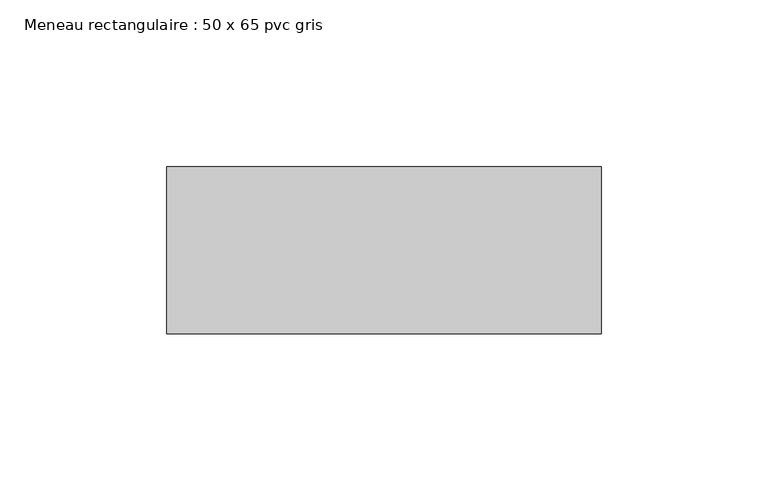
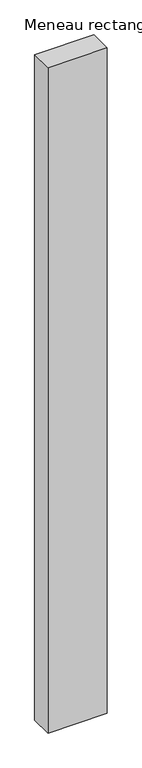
"""IFC4 building model written with IfcOpenShell, lengths in millimetres: member geometry, Meneau rectangulaire : 50 x 65 pvc gris."""

from ifc_helpers import new_model, si_unit, frame, origin, place, context, project, spatial, polyline, outline, extrude, source, transform, mapped, element, save


def meneau_rectangulaire_50_x_65_pvc_gris_b4070913(model_context):
    return source(origin(), model_context, "Body", "SweptSolid", [
        extrude(outline(polyline([(65.0, 0.0), (65.0, -50.0), (-65.0, -50.0), (-65.0, 0.0), (65.0, 0.0)])), frame((0.0, 0.0, -1541.2872498), z_axis=(0.0, 0.0, 1.0), x_axis=(1.0, 0.0, 0.0)), (0.0, 0.0, 1.0), 1541.2872498),
    ])


if __name__ == "__main__":
    model = new_model("IFC4")
    model_context = context("Model", 3, world=origin())
    ifc_project = project(units=[si_unit("LENGTHUNIT", "METRE", prefix="MILLI")], contexts=[model_context])
    site = spatial("IfcSite", under=ifc_project)
    building = spatial("IfcBuilding", under=site)
    placement = place(None, origin())
    meneau_rectangulaire_50_x_65_pvc_gris_shape = meneau_rectangulaire_50_x_65_pvc_gris_b4070913(model_context)
    element("IfcMember", 1, ObjectType="Meneau rectangulaire : 50 x 65 pvc gris", at=placement, inside=building, context=model_context, shape_type="MappedRepresentation", body=[
        mapped(meneau_rectangulaire_50_x_65_pvc_gris_shape, transform((0.0, 0.0, 0.0), x_axis=(1.0, 0.0, 0.0), y_axis=(0.0, 1.0, 0.0), z_axis=(0.0, 0.0, 1.0))),
    ])
    save(model, "model.ifc")
